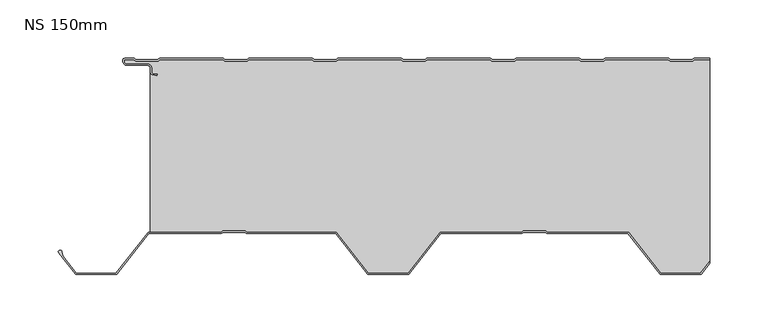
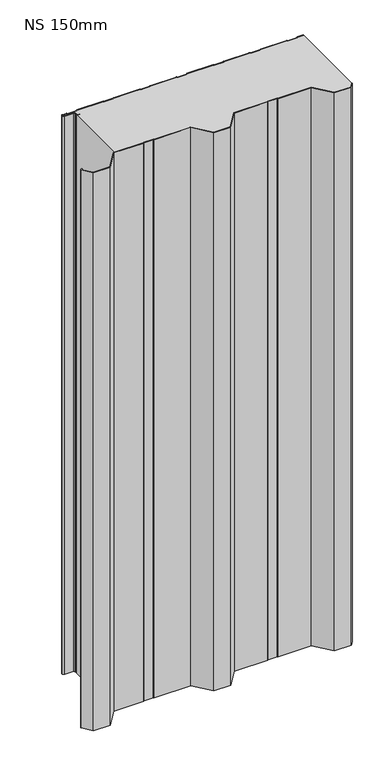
"""IFC4 building model written with IfcOpenShell, lengths in millimetres: plate geometry, KIP-MEX-KC-R19-CP-NS-SL : NS 150mm."""

from ifc_helpers import new_model, si_unit, point, frame_2d, origin, origin_with_axes, place, context, project, spatial, polyline, circle_curve, trimmed, segment, composite_curve, outline, extrude, source, transform, mapped, element, save


def ns_150mm_5f833d06(model_context):
    return source(origin(), model_context, "Body", "SweptSolid", [
        extrude(outline(composite_curve([segment(polyline([(227.123241, -0.0163933), (239.9945361, -0.0159213), (239.9945727, -1.0159213), (226.9741266, -1.0163987), (225.5885376, -2.2166802), (206.2133713, -2.2173907), (204.8276943, -1.0172108), (150.774279, -1.0191928), (149.3886901, -2.2194743), (130.0135238, -2.2201847), (128.6278468, -1.0200048), (74.5744315, -1.0219868), (73.1888425, -2.2222684), (53.8136762, -2.2229788), (52.4279992, -1.0227989), (-1.6254161, -1.0247809), (-3.011005, -2.2250624), (-22.3861713, -2.2257728), (-23.7718483, -1.0255929), (-77.8252636, -1.0275749), (-79.2108526, -2.2278565), (-98.5860189, -2.2285669), (-99.9716959, -1.028387), (-154.0251112, -1.030369), (-155.4107001, -2.2306505), (-174.7858664, -2.2313609), (-176.1715434, -1.0311811), (-230.2249587, -1.0331631), (-231.6105477, -2.2334446), (-250.985714, -2.234155), (-252.3714037, -1.033964), (-260.8729652, -1.0342758), (-260.8729102, -2.5341955)]), True, "CONTINUOUS"), segment(trimmed(circle_curve(frame_2d((-258.3730059, -2.5341039)), 2.4999043), [point((-260.8729102, -2.5341955))], [point((-258.3729142, -5.0340082))], True, "CARTESIAN"), True, "CONTINUOUS"), segment(polyline([(-258.3729142, -5.0340082), (-240.3723293, -5.0333481)]), True, "CONTINUOUS"), segment(trimmed(circle_curve(frame_2d((-240.3722192, -8.033707)), 3.0003589), [point((-240.3723293, -5.0333481))], [point((-237.3718611, -8.031496))], False, "CARTESIAN"), True, "CONTINUOUS"), segment(polyline([(-237.3718611, -8.031496), (-237.3717293, -11.6278093)]), True, "CONTINUOUS"), segment(trimmed(circle_curve(frame_2d((-235.8709539, -11.6277542)), 1.5007756), [point((-237.3717293, -11.6278093))], [point((-236.1303812, -13.1059372))], True, "CARTESIAN"), True, "CONTINUOUS"), segment(polyline([(-236.1303812, -13.1059372), (-232.5880236, -13.7276358), (-232.7608858, -14.7125822), (-236.3032442, -14.0908835)]), True, "CONTINUOUS"), segment(trimmed(circle_curve(frame_2d((-235.8709546, -11.6277539)), 2.5007763), [point((-236.3032442, -14.0908835))], [point((-238.3717304, -11.6293201))], False, "CARTESIAN"), True, "CONTINUOUS"), segment(polyline([(-238.3717304, -11.6293201), (-238.3718623, -8.0321373)]), True, "CONTINUOUS"), segment(trimmed(circle_curve(frame_2d((-240.3722178, -8.0337098)), 2.0003562), [point((-238.3718623, -8.0321373))], [point((-240.3722912, -6.0333536))], True, "CARTESIAN"), True, "CONTINUOUS"), segment(polyline([(-240.3722912, -6.0333536), (-258.3728886, -6.0340137)]), True, "CONTINUOUS"), segment(trimmed(circle_curve(frame_2d((-258.373017, -2.5340983)), 3.4999153), [point((-258.3728886, -6.0340137))], [point((-261.8729323, -2.5342267))], False, "CARTESIAN"), True, "CONTINUOUS"), segment(polyline([(-261.8729323, -2.5342267), (-261.872969, -1.534303)]), True, "CONTINUOUS"), segment(trimmed(circle_curve(frame_2d((-260.3729895, -1.534248)), 1.4999795), [point((-261.872969, -1.534303))], [point((-260.3730445, -0.0342685))], False, "CARTESIAN"), True, "CONTINUOUS"), segment(polyline([(-260.3730445, -0.0342685), (-252.5205788, -0.0339806)]), True, "CONTINUOUS"), segment(trimmed(circle_curve(frame_2d((-252.5205274, -1.4339778)), 1.3999972), [point((-252.5205788, -0.0339806))], [point((-251.6039493, -0.3757355))], False, "CARTESIAN"), True, "CONTINUOUS"), segment(polyline([(-251.6039493, -0.3757355), (-250.6128702, -1.2341413), (-231.9834648, -1.2334582), (-230.9924486, -0.3749797)]), True, "CONTINUOUS"), segment(trimmed(circle_curve(frame_2d((-230.0757929, -1.4331548)), 1.3999972), [point((-230.9924486, -0.3749797))], [point((-230.0758443, -0.0331576))], False, "CARTESIAN"), True, "CONTINUOUS"), segment(polyline([(-230.0758443, -0.0331576), (-176.3207312, -0.0311865)]), True, "CONTINUOUS"), segment(trimmed(circle_curve(frame_2d((-176.3206799, -1.4311837)), 1.3999972), [point((-176.3207312, -0.0311865))], [point((-175.4041018, -0.3729414))], False, "CARTESIAN"), True, "CONTINUOUS"), segment(polyline([(-175.4041018, -0.3729414), (-174.4130227, -1.2313473), (-155.7836172, -1.2306642), (-154.7926011, -0.3721856)]), True, "CONTINUOUS"), segment(trimmed(circle_curve(frame_2d((-153.8759454, -1.4303607)), 1.3999972), [point((-154.7926011, -0.3721856))], [point((-153.8759967, -0.0303635))], False, "CARTESIAN"), True, "CONTINUOUS"), segment(polyline([(-153.8759967, -0.0303635), (-100.1208837, -0.0283925)]), True, "CONTINUOUS"), segment(trimmed(circle_curve(frame_2d((-100.1208323, -1.4283897)), 1.3999972), [point((-100.1208837, -0.0283925))], [point((-99.2042542, -0.3701474))], False, "CARTESIAN"), True, "CONTINUOUS"), segment(polyline([(-99.2042542, -0.3701474), (-98.2131751, -1.2285532), (-79.5837697, -1.2278701), (-78.5927535, -0.3693916)]), True, "CONTINUOUS"), segment(trimmed(circle_curve(frame_2d((-77.6760978, -1.4275667)), 1.3999972), [point((-78.5927535, -0.3693916))], [point((-77.6761492, -0.0275695))], False, "CARTESIAN"), True, "CONTINUOUS"), segment(polyline([(-77.6761492, -0.0275695), (-23.9210361, -0.0255984)]), True, "CONTINUOUS"), segment(trimmed(circle_curve(frame_2d((-23.9209848, -1.4255956)), 1.3999972), [point((-23.9210361, -0.0255984))], [point((-23.0044067, -0.3673533))], False, "CARTESIAN"), True, "CONTINUOUS"), segment(polyline([(-23.0044067, -0.3673533), (-22.0133276, -1.2257592), (-3.3839221, -1.2250761), (-2.392906, -0.3665975)]), True, "CONTINUOUS"), segment(trimmed(circle_curve(frame_2d((-1.4762503, -1.4247726)), 1.3999972), [point((-2.392906, -0.3665975))], [point((-1.4763016, -0.0247754))], False, "CARTESIAN"), True, "CONTINUOUS"), segment(polyline([(-1.4763016, -0.0247754), (52.2788114, -0.0228044)]), True, "CONTINUOUS"), segment(trimmed(circle_curve(frame_2d((52.2788628, -1.4228016)), 1.3999972), [point((52.2788114, -0.0228044))], [point((53.1954409, -0.3645593))], False, "CARTESIAN"), True, "CONTINUOUS"), segment(polyline([(53.1954409, -0.3645593), (54.18652, -1.2229651), (72.8159254, -1.222282), (73.8069416, -0.3638035)]), True, "CONTINUOUS"), segment(trimmed(circle_curve(frame_2d((74.7235973, -1.4219786)), 1.3999972), [point((73.8069416, -0.3638035))], [point((74.7235459, -0.0219814))], False, "CARTESIAN"), True, "CONTINUOUS"), segment(polyline([(74.7235459, -0.0219814), (128.478659, -0.0200103)]), True, "CONTINUOUS"), segment(trimmed(circle_curve(frame_2d((128.4787103, -1.4200075)), 1.3999972), [point((128.478659, -0.0200103))], [point((129.3952884, -0.3617652))], False, "CARTESIAN"), True, "CONTINUOUS"), segment(polyline([(129.3952884, -0.3617652), (130.3863675, -1.2201711), (149.015773, -1.219488), (150.0067891, -0.3610094)]), True, "CONTINUOUS"), segment(trimmed(circle_curve(frame_2d((150.9234448, -1.4191845)), 1.3999972), [point((150.0067891, -0.3610094))], [point((150.9233935, -0.0191873))], False, "CARTESIAN"), True, "CONTINUOUS"), segment(polyline([(150.9233935, -0.0191873), (204.6785065, -0.0172163)]), True, "CONTINUOUS"), segment(trimmed(circle_curve(frame_2d((204.6785579, -1.4172135)), 1.3999972), [point((204.6785065, -0.0172163))], [point((205.5951359, -0.3589711))], False, "CARTESIAN"), True, "CONTINUOUS"), segment(polyline([(205.5951359, -0.3589711), (206.5862151, -1.217377), (225.2156205, -1.2166939), (226.2066367, -0.3582154)]), True, "CONTINUOUS"), segment(trimmed(circle_curve(frame_2d((227.1232924, -1.4163905)), 1.3999972), [point((226.2066367, -0.3582154))], [point((227.123241, -0.0163933))], False, "CARTESIAN"), True, "CONTINUOUS")], self_intersect=False)), origin_with_axes(), (0.0, 0.0, 1.0), 1224.3718713),
        extrude(outline(composite_curve([segment(polyline([(-314.0514565, -165.3743988), (-313.3501987, -169.3468053), (-301.8079514, -184.0358259), (-267.7799839, -184.0345782), (-240.2812374, -149.0335319), (-177.8440581, -149.0312425), (-176.4298117, -148.0311895), (-157.22229, -148.0304852), (-155.8079703, -149.0304345), (-79.3089933, -149.0276295), (-51.8076802, -184.0266591), (-17.7797127, -184.0254113), (9.7190337, -149.024365), (79.1871118, -149.0218178), (80.6013583, -148.0217649), (99.8088799, -148.0210606), (101.2231997, -149.0210098), (170.6912778, -149.0184626), (198.192591, -184.0174922), (232.2205584, -184.0162445), (240.0009198, -174.1132189), (240.0009791, -175.7318093), (232.7066303, -185.0162266), (197.7065924, -185.01751), (170.2052792, -150.0184804), (100.9054116, -150.0210215), (99.4910918, -149.0210722), (80.9192197, -149.0217532), (79.5049733, -150.0218062), (10.2051057, -150.0243472), (-17.2936408, -185.0253935), (-52.2936788, -185.0266769), (-79.7949919, -150.0276473), (-156.1257584, -150.0304461), (-157.5400781, -149.0304969), (-176.1119503, -149.0311779), (-177.5261967, -150.0312308), (-239.7951655, -150.0335141), (-267.2939119, -185.0345604), (-302.2939499, -185.0358437), (-316.6619777, -166.7506476)]), True, "CONTINUOUS"), segment(trimmed(circle_curve(frame_2d((-315.482533, -165.8238709)), 1.5000016), [point((-316.6619777, -166.7506476))], [point((-314.0514565, -165.3743988))], False, "CARTESIAN"), True, "CONTINUOUS")], self_intersect=False)), origin_with_axes(), (0.0, 0.0, 1.0), 1224.3718713),
        extrude(outline(composite_curve([segment(polyline([(-238.3666921, -149.0334617), (-238.3717304, -11.6293312)]), True, "CONTINUOUS"), segment(trimmed(circle_curve(frame_2d((-235.8709546, -11.6277649)), 2.5007762), [point((-238.3717304, -11.6293312))], [point((-236.3032442, -14.0908945))], True, "CARTESIAN"), True, "CONTINUOUS"), segment(polyline([(-236.3032442, -14.0908945), (-232.7608858, -14.7125933), (-232.5880236, -13.7276468), (-236.1303812, -13.1059482)]), True, "CONTINUOUS"), segment(trimmed(circle_curve(frame_2d((-235.8709539, -11.6277653)), 1.5007755), [point((-236.1303812, -13.1059482))], [point((-237.3717294, -11.6278204))], False, "CARTESIAN"), True, "CONTINUOUS"), segment(polyline([(-237.3717294, -11.6278204), (-237.3718612, -8.0315071)]), True, "CONTINUOUS"), segment(trimmed(circle_curve(frame_2d((-240.3722193, -8.0337181)), 3.0003589), [point((-237.3718612, -8.0315071))], [point((-240.3723293, -5.0333592))], True, "CARTESIAN"), True, "CONTINUOUS"), segment(polyline([(-240.3723293, -5.0333592), (-258.3729142, -5.0340193)]), True, "CONTINUOUS"), segment(trimmed(circle_curve(frame_2d((-258.3730059, -2.534115)), 2.4999043), [point((-258.3729142, -5.0340193))], [point((-260.8729102, -2.5342066))], False, "CARTESIAN"), True, "CONTINUOUS"), segment(polyline([(-260.8729102, -2.5342066), (-260.8729652, -1.0342785), (-252.3714006, -1.0339667), (-250.9857139, -2.234155), (-231.6105476, -2.2334446), (-230.2249587, -1.0331631), (-176.1715434, -1.0311811), (-174.7858664, -2.2313609), (-155.4107001, -2.2306505), (-154.0251111, -1.030369), (-99.9716958, -1.028387), (-98.5860188, -2.2285669), (-79.2108525, -2.2278565), (-77.8252636, -1.0275749), (-23.7718483, -1.0255929), (-22.3861713, -2.2257728), (-3.011005, -2.2250624), (-1.625416, -1.0247809), (52.4279993, -1.0227989), (53.8136763, -2.2229788), (73.1888426, -2.2222684), (74.5744315, -1.0219868), (128.6278468, -1.0200048), (130.0135238, -2.2201847), (149.3886901, -2.2194743), (150.7742791, -1.0191928), (204.8276944, -1.0172108), (206.2133714, -2.2173907), (225.5885377, -2.2166802), (226.9741266, -1.0163987), (239.9945727, -1.0159213), (240.0009198, -174.1132189), (232.2205584, -184.0162445), (198.192591, -184.0174922), (170.6912778, -149.0184626), (101.2231997, -149.0210098), (99.8088799, -148.0210606), (80.6013583, -148.0217649), (79.1871118, -149.0218178), (9.7190337, -149.024365), (-17.7797127, -184.0254113), (-51.8076802, -184.0266591), (-79.3089933, -149.0276295), (-155.8079703, -149.0304345), (-157.22229, -148.0304852), (-176.4298117, -148.0311895), (-177.8440581, -149.0312425), (-238.3666921, -149.0334617)]), True, "CONTINUOUS")], self_intersect=False)), origin_with_axes(), (0.0, 0.0, 1.0), 1224.3718713),
    ])


if __name__ == "__main__":
    model = new_model("IFC4")
    model_context = context("Model", 3, world=origin())
    ifc_project = project(units=[si_unit("LENGTHUNIT", "METRE", prefix="MILLI")], contexts=[model_context])
    site = spatial("IfcSite", under=ifc_project)
    building = spatial("IfcBuilding", under=site)
    placement = place(None, origin())
    ns_150mm_shape = ns_150mm_5f833d06(model_context)
    element("IfcPlate", 1, ObjectType="KIP-MEX-KC-R19-CP-NS-SL : NS 150mm", at=placement, inside=building, context=model_context, shape_type="MappedRepresentation", body=[
        mapped(ns_150mm_shape, transform((0.0, 0.0, 0.0), x_axis=(1.0, 0.0, 0.0), y_axis=(0.0, 1.0, 0.0), z_axis=(0.0, 0.0, 1.0))),
    ])
    save(model, "model.ifc")
